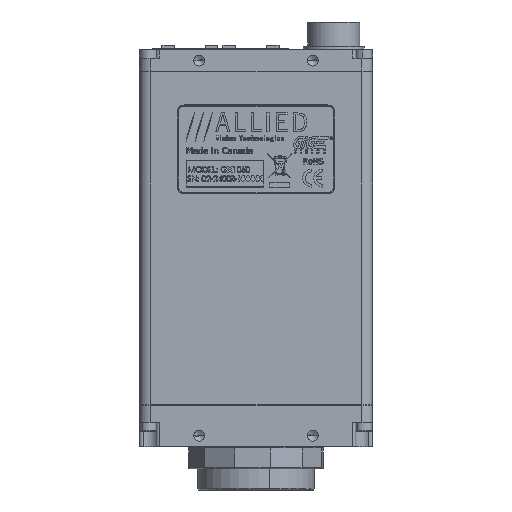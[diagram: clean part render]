
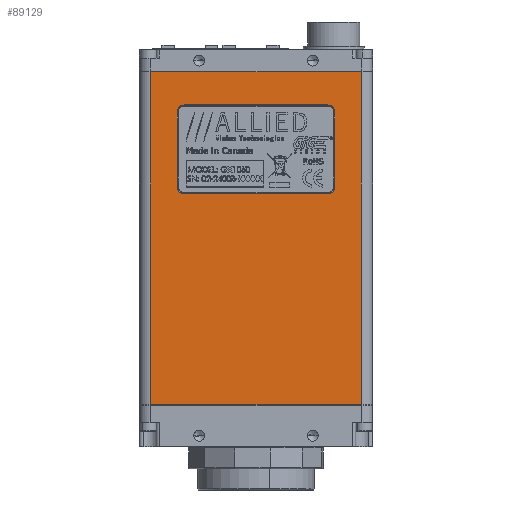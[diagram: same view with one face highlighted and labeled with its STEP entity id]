
A CAD part, front view. The second image highlights one B-rep face of the part: STEP entity #89129.
In plain terms, the highlighted planar face has unit normal (0, -1, 0).
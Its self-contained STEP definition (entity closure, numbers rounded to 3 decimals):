
#6179 = EDGE_LOOP ( 'NONE', ( #204821, #42258, #55375, #204453, #104466, #136380, #113336, #21966 ) ) ;
#12051 = EDGE_CURVE ( 'NONE', #65871, #183158, #169280, .T. ) ;
#12346 = EDGE_CURVE ( 'NONE', #157621, #203802, #214222, .T. ) ;
#18640 = VERTEX_POINT ( 'NONE', #46716 ) ;
#18725 = DIRECTION ( 'NONE',  ( 0., 1., 0. ) ) ;
#19182 = EDGE_CURVE ( 'NONE', #183158, #165896, #52190, .T. ) ;
#21966 = ORIENTED_EDGE ( 'NONE', *, *, #193812, .T. ) ;
#22641 = CARTESIAN_POINT ( 'NONE',  ( -18.034, -10.16, -92.399 ) ) ;
#23450 = DIRECTION ( 'NONE',  ( 0., 1., 0. ) ) ;
#24052 = PLANE ( 'NONE',  #135935 ) ;
#29292 = VERTEX_POINT ( 'NONE', #97886 ) ;
#29722 = EDGE_CURVE ( 'NONE', #79896, #68898, #157266, .T. ) ;
#32292 = LINE ( 'NONE', #22641, #197706 ) ;
#32411 = CARTESIAN_POINT ( 'NONE',  ( 18.034, -10.16, 11.748 ) ) ;
#39543 = DIRECTION ( 'NONE',  ( 0., 0., 1. ) ) ;
#41353 = AXIS2_PLACEMENT_3D ( 'NONE', #118828, #18725, #135461 ) ;
#41677 = CARTESIAN_POINT ( 'NONE',  ( 24.13, -10.16, -92.399 ) ) ;
#42258 = ORIENTED_EDGE ( 'NONE', *, *, #142355, .T. ) ;
#46716 = CARTESIAN_POINT ( 'NONE',  ( 24.13, -10.16, -38.1 ) ) ;
#48018 = CARTESIAN_POINT ( 'NONE',  ( -24.13, -10.16, 38.1 ) ) ;
#48441 = AXIS2_PLACEMENT_3D ( 'NONE', #156687, #57478, #173233 ) ;
#49273 = LINE ( 'NONE', #144435, #132526 ) ;
#49418 = DIRECTION ( 'NONE',  ( -1., 0., 0. ) ) ;
#50080 = VECTOR ( 'NONE', #83488, 1000. ) ;
#52190 = LINE ( 'NONE', #178704, #173964 ) ;
#52300 = ORIENTED_EDGE ( 'NONE', *, *, #19182, .T. ) ;
#53704 = CARTESIAN_POINT ( 'NONE',  ( 24.13, -10.16, 38.1 ) ) ;
#55375 = ORIENTED_EDGE ( 'NONE', *, *, #184936, .T. ) ;
#57478 = DIRECTION ( 'NONE',  ( 0., 1., 0. ) ) ;
#57525 = VERTEX_POINT ( 'NONE', #179004 ) ;
#58576 = DIRECTION ( 'NONE',  ( 1., 0., 0. ) ) ;
#59458 = DIRECTION ( 'NONE',  ( 0., 0., -1. ) ) ;
#60346 = CARTESIAN_POINT ( 'NONE',  ( 18.034, -10.16, -92.399 ) ) ;
#60758 = CARTESIAN_POINT ( 'NONE',  ( -24.13, -10.16, -38.1 ) ) ;
#62218 = AXIS2_PLACEMENT_3D ( 'NONE', #123452, #23450, #140037 ) ;
#65786 = DIRECTION ( 'NONE',  ( 0., 1., 0. ) ) ;
#65871 = VERTEX_POINT ( 'NONE', #104762 ) ;
#66639 = CARTESIAN_POINT ( 'NONE',  ( 24.13, -10.16, -38.1 ) ) ;
#68898 = VERTEX_POINT ( 'NONE', #32411 ) ;
#70270 = VERTEX_POINT ( 'NONE', #81704 ) ;
#70491 = CARTESIAN_POINT ( 'NONE',  ( -16.447, -10.16, 10.16 ) ) ;
#72677 = CIRCLE ( 'NONE', #48441, 1.587 ) ;
#73174 = FACE_OUTER_BOUND ( 'NONE', #114232, .T. ) ;
#78539 = ORIENTED_EDGE ( 'NONE', *, *, #129452, .T. ) ;
#79896 = VERTEX_POINT ( 'NONE', #209241 ) ;
#81704 = CARTESIAN_POINT ( 'NONE',  ( -18.034, -10.16, 11.748 ) ) ;
#83488 = DIRECTION ( 'NONE',  ( 1., 0., 0. ) ) ;
#89129 = ADVANCED_FACE ( 'NONE', ( #73174, #204117 ), #24052, .T. ) ;
#94816 = CARTESIAN_POINT ( 'NONE',  ( 16.447, -10.16, 10.16 ) ) ;
#96729 = CIRCLE ( 'NONE', #62218, 1.587 ) ;
#97886 = CARTESIAN_POINT ( 'NONE',  ( -16.447, -10.16, 30.48 ) ) ;
#99377 = CIRCLE ( 'NONE', #41353, 1.587 ) ;
#104466 = ORIENTED_EDGE ( 'NONE', *, *, #202791, .T. ) ;
#104762 = CARTESIAN_POINT ( 'NONE',  ( 24.13, -10.16, 38.1 ) ) ;
#113336 = ORIENTED_EDGE ( 'NONE', *, *, #125593, .T. ) ;
#113505 = VECTOR ( 'NONE', #59458, 1000. ) ;
#114232 = EDGE_LOOP ( 'NONE', ( #121155, #52300, #166385, #78539 ) ) ;
#118828 = CARTESIAN_POINT ( 'NONE',  ( 16.447, -10.16, 11.748 ) ) ;
#119582 = AXIS2_PLACEMENT_3D ( 'NONE', #164869, #65786, #181327 ) ;
#121155 = ORIENTED_EDGE ( 'NONE', *, *, #12051, .T. ) ;
#121813 = CARTESIAN_POINT ( 'NONE',  ( 24.13, -10.16, 30.48 ) ) ;
#123452 = CARTESIAN_POINT ( 'NONE',  ( -16.447, -10.16, 28.893 ) ) ;
#125593 = EDGE_CURVE ( 'NONE', #203802, #70270, #185929, .T. ) ;
#128940 = LINE ( 'NONE', #121813, #210258 ) ;
#129452 = EDGE_CURVE ( 'NONE', #18640, #65871, #49273, .T. ) ;
#132526 = VECTOR ( 'NONE', #160921, 1000. ) ;
#135461 = DIRECTION ( 'NONE',  ( 1., 0., 0. ) ) ;
#135935 = AXIS2_PLACEMENT_3D ( 'NONE', #41677, #157760, #58576 ) ;
#136380 = ORIENTED_EDGE ( 'NONE', *, *, #12346, .T. ) ;
#138441 = DIRECTION ( 'NONE',  ( 1., 0., 0. ) ) ;
#140037 = DIRECTION ( 'NONE',  ( 1., 0., 0. ) ) ;
#142355 = EDGE_CURVE ( 'NONE', #29292, #147440, #128940, .T. ) ;
#144435 = CARTESIAN_POINT ( 'NONE',  ( 24.13, -10.16, -92.399 ) ) ;
#147440 = VERTEX_POINT ( 'NONE', #194079 ) ;
#155865 = EDGE_CURVE ( 'NONE', #165896, #18640, #182025, .T. ) ;
#156687 = CARTESIAN_POINT ( 'NONE',  ( 16.447, -10.16, 28.893 ) ) ;
#157266 = LINE ( 'NONE', #60346, #113505 ) ;
#157621 = VERTEX_POINT ( 'NONE', #94816 ) ;
#157760 = DIRECTION ( 'NONE',  ( 0., -1., 0. ) ) ;
#160921 = DIRECTION ( 'NONE',  ( 0., 0., 1. ) ) ;
#164869 = CARTESIAN_POINT ( 'NONE',  ( -16.447, -10.16, 11.748 ) ) ;
#165896 = VERTEX_POINT ( 'NONE', #60758 ) ;
#166385 = ORIENTED_EDGE ( 'NONE', *, *, #155865, .T. ) ;
#169280 = LINE ( 'NONE', #53704, #212035 ) ;
#171561 = VECTOR ( 'NONE', #207800, 1000. ) ;
#173233 = DIRECTION ( 'NONE',  ( 1., 0., 0. ) ) ;
#173964 = VECTOR ( 'NONE', #180330, 1000. ) ;
#178704 = CARTESIAN_POINT ( 'NONE',  ( -24.13, -10.16, -92.399 ) ) ;
#179004 = CARTESIAN_POINT ( 'NONE',  ( -18.034, -10.16, 28.893 ) ) ;
#180330 = DIRECTION ( 'NONE',  ( 0., 0., -1. ) ) ;
#181327 = DIRECTION ( 'NONE',  ( 1., 0., 0. ) ) ;
#182025 = LINE ( 'NONE', #66639, #50080 ) ;
#183158 = VERTEX_POINT ( 'NONE', #48018 ) ;
#184032 = EDGE_CURVE ( 'NONE', #57525, #29292, #96729, .T. ) ;
#184936 = EDGE_CURVE ( 'NONE', #147440, #79896, #72677, .T. ) ;
#185929 = CIRCLE ( 'NONE', #119582, 1.587 ) ;
#193812 = EDGE_CURVE ( 'NONE', #70270, #57525, #32292, .T. ) ;
#194079 = CARTESIAN_POINT ( 'NONE',  ( 16.447, -10.16, 30.48 ) ) ;
#197706 = VECTOR ( 'NONE', #39543, 1000. ) ;
#202791 = EDGE_CURVE ( 'NONE', #68898, #157621, #99377, .T. ) ;
#203802 = VERTEX_POINT ( 'NONE', #70491 ) ;
#204117 = FACE_BOUND ( 'NONE', #6179, .T. ) ;
#204453 = ORIENTED_EDGE ( 'NONE', *, *, #29722, .T. ) ;
#204821 = ORIENTED_EDGE ( 'NONE', *, *, #184032, .T. ) ;
#207601 = CARTESIAN_POINT ( 'NONE',  ( 24.13, -10.16, 10.16 ) ) ;
#207800 = DIRECTION ( 'NONE',  ( -1., 0., 0. ) ) ;
#209241 = CARTESIAN_POINT ( 'NONE',  ( 18.034, -10.16, 28.893 ) ) ;
#210258 = VECTOR ( 'NONE', #138441, 1000. ) ;
#212035 = VECTOR ( 'NONE', #49418, 1000. ) ;
#214222 = LINE ( 'NONE', #207601, #171561 ) ;
